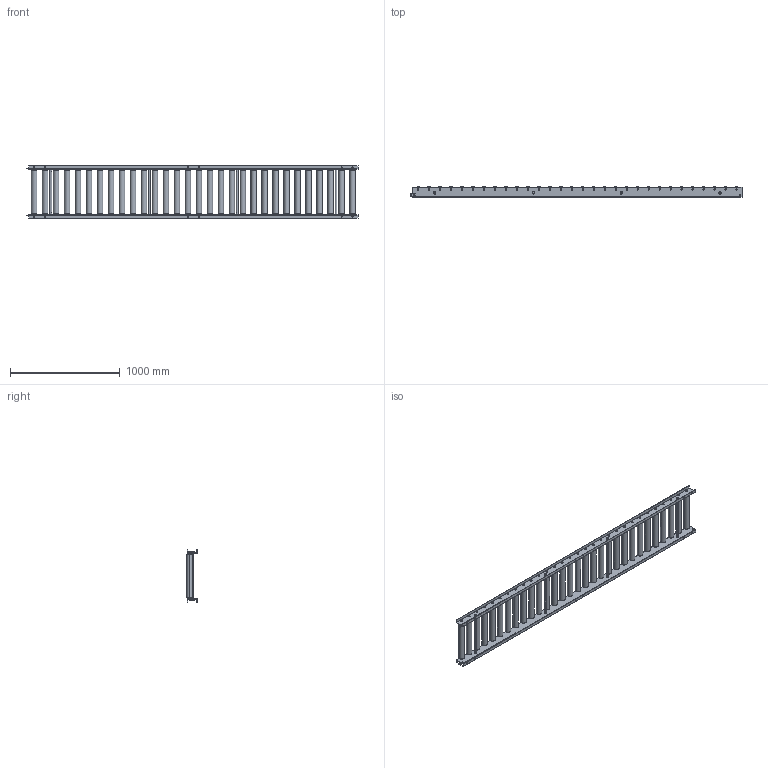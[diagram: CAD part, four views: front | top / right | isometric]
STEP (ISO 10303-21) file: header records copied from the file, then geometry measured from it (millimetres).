
FILE_DESCRIPTION (( 'STEP AP203' ), '1' );
FILE_NAME ('JR-5028.step', '2024-02-26T06:36:10', ( '' ), ( '' ), 'SwSTEP 2.0', 'SolidWorks 2023', '' );
FILE_SCHEMA (( 'CONFIG_CONTROL_DESIGN' ));
Length unit declared in the file: millimetre
Products named in the file (1): JR-5028
Bounding box: 3025 x 96.6 x 475 mm (x, y, z)
Volume: 25776456.2 mm3; surface area: 5293337.1 mm2
Topology: 84 solids, 84 shells, 1280 faces, 2932 edges, 1888 vertices
Faces by surface type: cylinder 622, plane 490, torus 120, cone 48
Entity records: 37571 total; most frequent: DIRECTION 7018, CARTESIAN_POINT 6773, ORIENTED_EDGE 5864, AXIS2_PLACEMENT_3D 2933, EDGE_CURVE 2932, VERTEX_POINT 1888, EDGE_LOOP 1652, CIRCLE 1652
